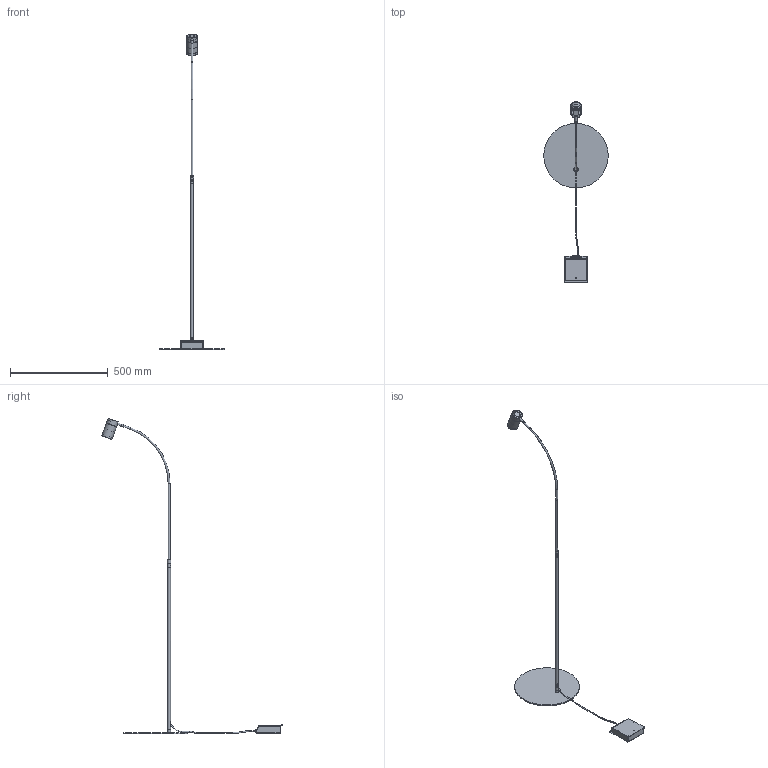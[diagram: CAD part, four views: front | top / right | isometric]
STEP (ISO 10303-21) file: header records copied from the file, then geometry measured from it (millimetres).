
FILE_DESCRIPTION(/* description */ (''),/* implementation_level */ '2;1');
FILE_NAME(/* name */ 'ASM LUXSI READING v4.step',/* time_stamp */ '2023-03-02T15:21:24+01:00',/* author */ (''),/* organization */ (''),/* preprocessor_version */ 'ST-DEVELOPER v19.2',/* originating_system */ 'Autodesk Translation Framework v11.17.0.187',/* authorisation */ '');
FILE_SCHEMA (('AUTOMOTIVE_DESIGN { 1 0 10303 214 3 1 1 }'));
Products named in the file (43): ASM LUXSI READING; Assieme Pedale Quadro; BLOCCACAVO STEAB 5100_7_08_26; Dado M10x1_STEAB 5339; BLOCCACAVO STEAB 5100_7_08_26_1; STEAB 5408_4_10; PUSH-BUTTON; PULSANTE; 91800A015_18-8 Stainless Steel Narrow Cheese Head Slotted Screws; Ghiera bottone pedale; Driver  TCI 127492BIS; CALOTTA BL715-488787425; BASE BL714-488787424; BJB Terminal Block 2 Poles 46.412.1200.50; BJB Terminal Block 3 Poles 46.413.1214.50; 002YR0HY04-1; 002YR0HY04-2; Distanziatore Tasto pedale; Vite_TC M4x25; Vite_TC M3x15; Lamierino porta Tasto; Copertura Pedaliera Quadro; Base Pedaliera Quadro; Vite_TS M4x8; Vite_TC M4x6; Piedini Autoadesivi; 97985A530_Zinc-Plated Steel External-Tooth Lock Washer; Vite_TC M4x4; cavo (1); Vite TSV M14x20; Rayconn - ALT55 - Braccio 30; SPOT; ARM; COB LENS; LED PCB v12; LAMIERA LED SUPERIORE v12; LED GROUP; LED (1); ANTIGLARE; Base Inferiore Luxsi Reading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
Assembly tree (54 placements, depth 5):
  ASM LUXSI READING
    Assieme Pedale Quadro
      BLOCCACAVO STEAB 5100_7_08_26
        STEAB 5408_4_10
      Dado M10x1_STEAB 5339  x2
      BLOCCACAVO STEAB 5100_7_08_26_1
        STEAB 5408_4_10
      PUSH-BUTTON
        PULSANTE  x2
        91800A015_18-8 Stainless Steel Narrow Cheese Head Slotted Screws  x2
      Ghiera bottone pedale
      Driver  TCI 127492BIS
        CALOTTA BL715-488787425
        BASE BL714-488787424
      BJB Terminal Block 2 Poles 46.412.1200.50
      BJB Terminal Block 3 Poles 46.413.1214.50
        002YR0HY04-1
        002YR0HY04-2
      Distanziatore Tasto pedale  x2
      Vite_TC M4x25  x2
      Vite_TC M3x15  x2
      Lamierino porta Tasto
      Copertura Pedaliera Quadro
      Base Pedaliera Quadro
      Vite_TS M4x8  x2
      Vite_TC M4x6  x2
      Piedini Autoadesivi  x4
      97985A530_Zinc-Plated Steel External-Tooth Lock Washer
      Vite_TC M4x4
    cavo (1)
    Vite TSV M14x20
    Rayconn - ALT55 - Braccio 30
      SPOT
      ARM
      COB LENS
      LED PCB v12
        LAMIERA LED SUPERIORE v12
        LED GROUP
          LED (1)
      ANTIGLARE
    Base Inferiore Luxsi Reading
    Boccola Luxsi Asta 16
    Luxsi Reading Asta Vert
    Luxsi_Tubo_04
Bounding box: 330 x 922.07 x 1611.96 mm (x, y, z)
Volume: 960341.9 mm3; surface area: 495723.1 mm2
Topology: 51 solids, 51 shells, 3262 faces, 8285 edges, 5282 vertices
Faces by surface type: plane 1620, cylinder 783, bspline 508, torus 172, sphere 93, cone 86
Full cylindrical faces by diameter (mm): 1.2 x5, 1.933 x2, 2.3 x10, 2.4 x5, 2.5 x4, 2.529 x3, 2.927 x2, 3 x4, 3.332 x6, 3.8 x2, 3.9 x5, 3.908 x7, 4.2 x3, 4.3 x1, 4.5 x9, 5 x11, 5.6 x3, 5.8 x2, 6 x4, 6.035 x2, 6.884 x2, 7 x2, 7.2 x2, 8 x8, 8.526 x1, 9.036 x3, 9.3 x4, 9.884 x5, 9.9 x4, 10 x1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
Entity records: 118050 total; most frequent: CARTESIAN_POINT 42301, ORIENTED_EDGE 15678, DIRECTION 14864, EDGE_CURVE 7839, AXIS2_PLACEMENT_3D 5186, VERTEX_POINT 5001, LINE 4492, VECTOR 4492
